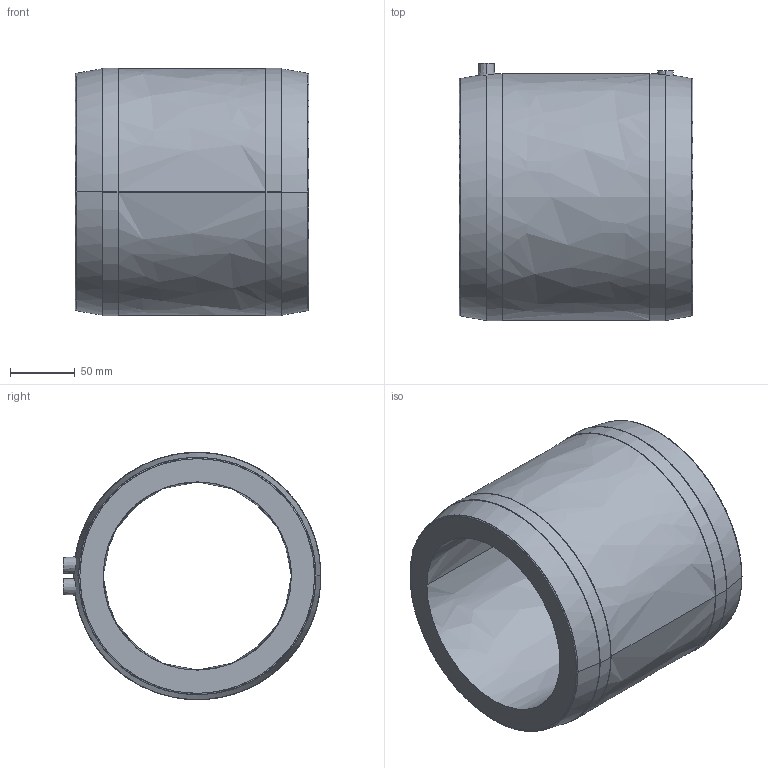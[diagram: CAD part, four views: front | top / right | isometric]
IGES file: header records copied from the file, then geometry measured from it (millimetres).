
Start section:  PTC IGES file: rem_d160_dn150_01.igs
Global section: file name: rem_d160_dn150_01.igs; native system: Pro/ENGINEER by Parametric Technology Corporation; preprocessor: 2011490; author: mtunjic; organization: Unknown; date: 20130806.113349; units: millimetre
Bounding box: 180 x 198.7 x 190.6 mm (x, y, z)
Surface area: 210231.1 mm2 (no closed solid volume)
Topology: 0 solids, 0 shells, 165 faces, 852 edges, 852 vertices
Faces by surface type: bspline 165
